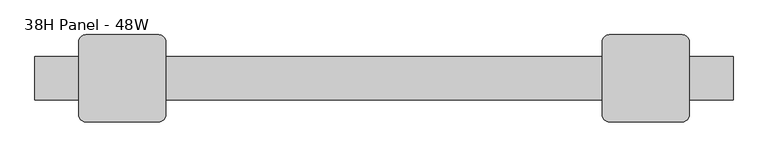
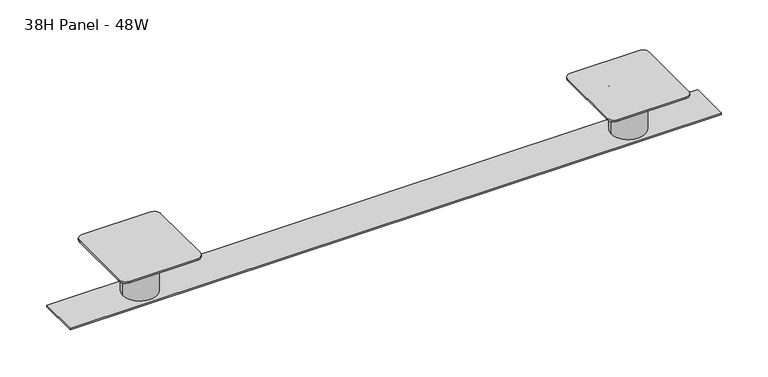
"""IFC4 building model written with IfcOpenShell, lengths in millimetres: furniture geometry, Steelcase - Montage - Healthcare Components - Upmount Transaction Top Brackets : 38H Panel - 48W."""

from ifc_helpers import new_model, si_unit, point, frame, frame_2d, origin, place, context, project, spatial, polyline, circle_curve, trimmed, segment, composite_curve, outline, extrude, source, transform, mapped, element, save


def furniture_38h_panel_48w_99b88fe5(model_context):
    return source(origin(), model_context, "Body", "SweptSolid", [
        extrude(outline(composite_curve([segment(trimmed(circle_curve(frame_2d((38.1, 0.0)), 31.75), [point((6.35, 0.0))], [point((69.85, 0.0))], False, "CARTESIAN"), True, "CONTINUOUS"), segment(trimmed(circle_curve(frame_2d((38.1, 0.0)), 31.75), [point((69.85, 0.0))], [point((6.35, 0.0))], False, "CARTESIAN"), True, "CONTINUOUS")], self_intersect=False)), frame((0.0, 0.0, 962.0249758), z_axis=(0.0, 0.0, 1.0), x_axis=(1.0, 0.0, 0.0)), (0.0, 0.0, 1.0), 82.5500242),
        extrude(outline(composite_curve([segment(trimmed(circle_curve(frame_2d((952.5, 0.0)), 31.75), [point((920.75, 0.0))], [point((984.25, 0.0))], False, "CARTESIAN"), True, "CONTINUOUS"), segment(trimmed(circle_curve(frame_2d((952.5, 0.0)), 31.75), [point((984.25, 0.0))], [point((920.75, 0.0))], False, "CARTESIAN"), True, "CONTINUOUS")], self_intersect=False)), frame((0.0, 0.0, 962.0249758), z_axis=(0.0, 0.0, 1.0), x_axis=(1.0, 0.0, 0.0)), (0.0, 0.0, 1.0), 82.5500242),
        extrude(outline(composite_curve([segment(trimmed(circle_curve(frame_2d((101.6, 63.5)), 12.7), [point((101.6, 76.2))], [point((114.3, 63.5))], False, "CARTESIAN"), True, "CONTINUOUS"), segment(polyline([(114.3, 63.5), (114.3, -63.5)]), True, "CONTINUOUS"), segment(trimmed(circle_curve(frame_2d((101.6, -63.5)), 12.7), [point((114.3, -63.5))], [point((101.6, -76.2))], False, "CARTESIAN"), True, "CONTINUOUS"), segment(polyline([(101.6, -76.2), (-25.4, -76.2)]), True, "CONTINUOUS"), segment(trimmed(circle_curve(frame_2d((-25.4, -63.5)), 12.7), [point((-25.4, -76.2))], [point((-38.1, -63.5))], False, "CARTESIAN"), True, "CONTINUOUS"), segment(polyline([(-38.1, -63.5), (-38.1, 63.5)]), True, "CONTINUOUS"), segment(trimmed(circle_curve(frame_2d((-25.4, 63.5)), 12.7), [point((-38.1, 63.5))], [point((-25.4, 76.2))], False, "CARTESIAN"), True, "CONTINUOUS"), segment(polyline([(-25.4, 76.2), (101.6, 76.2)]), True, "CONTINUOUS")], self_intersect=False)), frame((0.0, 0.0, 1044.575), z_axis=(0.0, 0.0, 1.0), x_axis=(1.0, 0.0, 0.0)), (0.0, 0.0, 1.0), 3.1749758),
        extrude(outline(composite_curve([segment(polyline([(889.0, 76.2), (1016.0, 76.2)]), True, "CONTINUOUS"), segment(trimmed(circle_curve(frame_2d((1016.0, 63.5)), 12.7), [point((1016.0, 76.2))], [point((1028.7, 63.5))], False, "CARTESIAN"), True, "CONTINUOUS"), segment(polyline([(1028.7, 63.5), (1028.7, -63.5)]), True, "CONTINUOUS"), segment(trimmed(circle_curve(frame_2d((1016.0, -63.5)), 12.7), [point((1028.7, -63.5))], [point((1016.0, -76.2))], False, "CARTESIAN"), True, "CONTINUOUS"), segment(polyline([(1016.0, -76.2), (889.0, -76.2)]), True, "CONTINUOUS"), segment(trimmed(circle_curve(frame_2d((889.0, -63.5)), 12.7), [point((889.0, -76.2))], [point((876.3, -63.5))], False, "CARTESIAN"), True, "CONTINUOUS"), segment(polyline([(876.3, -63.5), (876.3, 63.5)]), True, "CONTINUOUS"), segment(trimmed(circle_curve(frame_2d((889.0, 63.5)), 12.7), [point((876.3, 63.5))], [point((889.0, 76.2))], False, "CARTESIAN"), True, "CONTINUOUS")], self_intersect=False)), frame((0.0, 0.0, 1044.575), z_axis=(0.0, 0.0, 1.0), x_axis=(1.0, 0.0, 0.0)), (0.0, 0.0, 1.0), 3.1749758),
        extrude(outline(polyline([(1104.9, -38.1), (-114.3, -38.1), (-114.3, 38.1), (1104.9, 38.1), (1104.9, -38.1)])), frame((0.0, 0.0, 958.85), z_axis=(0.0, 0.0, 1.0), x_axis=(1.0, 0.0, 0.0)), (0.0, 0.0, 1.0), 3.1749758),
    ])


if __name__ == "__main__":
    model = new_model("IFC4")
    model_context = context("Model", 3, world=origin())
    ifc_project = project(units=[si_unit("LENGTHUNIT", "METRE", prefix="MILLI")], contexts=[model_context])
    site = spatial("IfcSite", under=ifc_project)
    building = spatial("IfcBuilding", under=site)
    placement = place(None, origin())
    furniture_38h_panel_48w_shape = furniture_38h_panel_48w_99b88fe5(model_context)
    element("IfcFurniture", 1, ObjectType="Steelcase - Montage - Healthcare Components - Upmount Transaction Top Brackets : 38H Panel - 48W", at=placement, inside=building, context=model_context, shape_type="MappedRepresentation", body=[
        mapped(furniture_38h_panel_48w_shape, transform((0.0, 0.0, 0.0), x_axis=(1.0, 0.0, 0.0), y_axis=(0.0, 1.0, 0.0), z_axis=(0.0, 0.0, 1.0))),
    ])
    save(model, "model.ifc")
